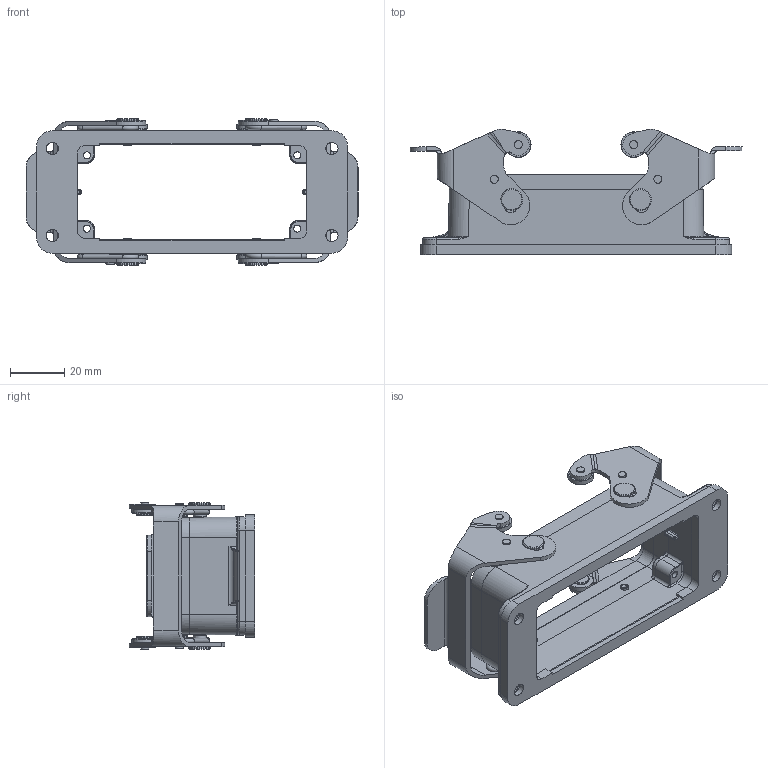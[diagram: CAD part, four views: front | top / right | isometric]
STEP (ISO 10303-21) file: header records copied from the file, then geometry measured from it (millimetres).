
FILE_DESCRIPTION (( 'STEP AP203' ), '1' );
FILE_NAME ('H16B-AG.STEP', '2023-06-07T08:36:10', ( '' ), ( '' ), 'SwSTEP 2.0', 'SolidWorks 2016', '' );
FILE_SCHEMA (( 'CONFIG_CONTROL_DESIGN' ));
Length unit declared in the file: millimetre
Products named in the file (1): H16B-AG
Bounding box: 122.31 x 46.27 x 54 mm (x, y, z)
Volume: 45122.6 mm3; surface area: 35036.7 mm2
Topology: 1 solids, 9 shells, 864 faces, 2287 edges, 1453 vertices
Faces by surface type: cylinder 296, plane 264, bspline 172, torus 64, cone 64, sphere 4
Full cylindrical faces by diameter (mm): 1.8 x4, 2.95 x12, 3 x8, 4.54 x4, 4.8 x12, 4.9 x4, 6.3 x8, 8 x4, 9.4 x4
Entity records: 34960 total; most frequent: CARTESIAN_POINT 16889, ORIENTED_EDGE 4096, DIRECTION 2968, EDGE_CURVE 2048, VERTEX_POINT 1353, AXIS2_PLACEMENT_3D 1123, EDGE_LOOP 1077, FACE_OUTER_BOUND 968
